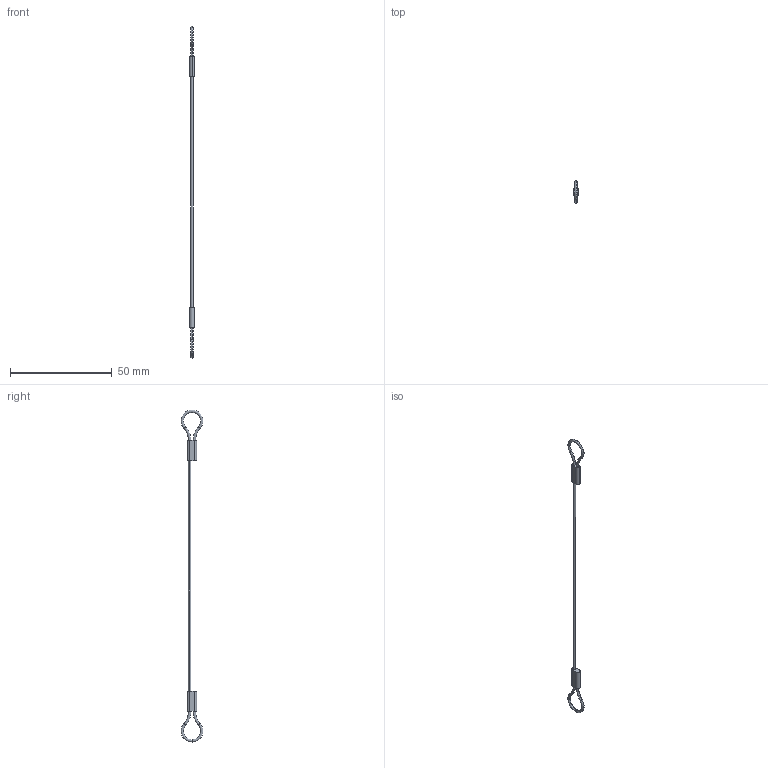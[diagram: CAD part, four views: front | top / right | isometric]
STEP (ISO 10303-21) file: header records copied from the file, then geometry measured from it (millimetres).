
FILE_DESCRIPTION (( 'STEP AP203' ), '1' );
FILE_NAME ('LA1065.I04-152N1.step', '2026-03-23T15:40:33', ( '' ), ( '' ), 'SwSTEP 2.0', 'SolidWorks 2019', '' );
FILE_SCHEMA (( 'CONFIG_CONTROL_DESIGN' ));
Length unit declared in the file: millimetre
Products named in the file (1): LA1065.I04-152N1
Bounding box: 2.4 x 10.78 x 163.17 mm (x, y, z)
Volume: 405.5 mm3; surface area: 967.7 mm2
Topology: 1 solids, 1 shells, 30 faces, 68 edges, 42 vertices
Faces by surface type: torus 14, cylinder 8, plane 8
Entity records: 945 total; most frequent: DIRECTION 178, CARTESIAN_POINT 141, ORIENTED_EDGE 136, AXIS2_PLACEMENT_3D 79, EDGE_CURVE 68, CIRCLE 48, VERTEX_POINT 42, EDGE_LOOP 36
